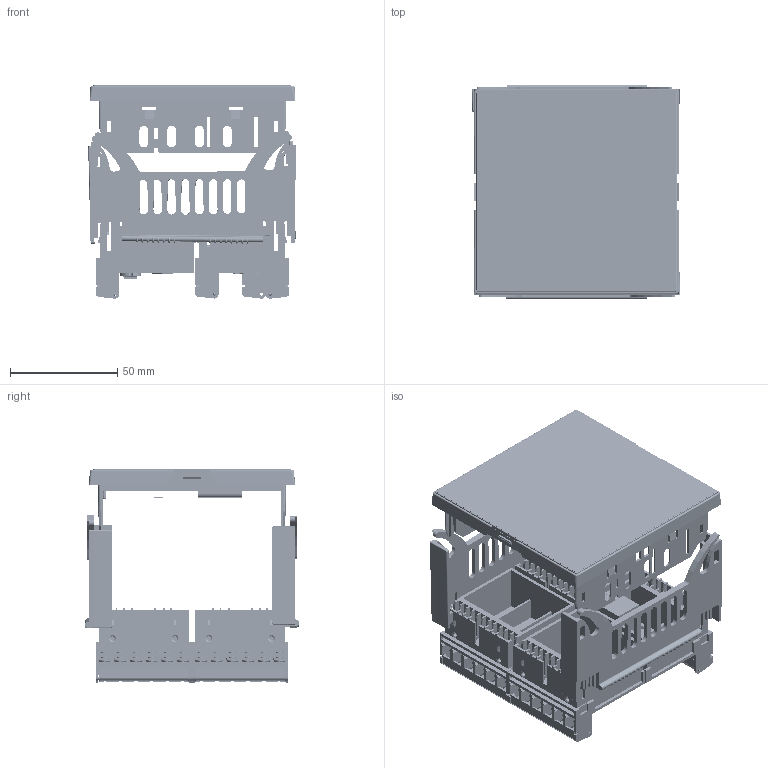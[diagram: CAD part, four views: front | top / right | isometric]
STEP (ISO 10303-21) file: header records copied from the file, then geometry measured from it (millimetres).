
FILE_DESCRIPTION((''),'2;1');
FILE_NAME('EPLC100_3D_MODEL','2019-12-03T',('SESA560213'),('Schneider-Electric'),'PRO/ENGINEER BY PARAMETRIC TECHNOLOGY CORPORATION, 2015440','PRO/ENGINEER BY PARAMETRIC TECHNOLOGY CORPORATION, 2015440','');
FILE_SCHEMA(('CONFIG_CONTROL_DESIGN'));
Products named in the file (1): EPLC100_3D_MODEL
Bounding box: 97.01 x 100.37 x 99.62 mm (x, y, z)
Volume: 134081.4 mm3; surface area: 187439 mm2
Topology: 11 solids, 40 shells, 15090 faces, 43168 edges, 28144 vertices
Faces by surface type: plane 12275, cylinder 2382, cone 234, torus 117, bspline 66, extrusion 8, sphere 8
Entity records: 500122 total; most frequent: CARTESIAN_POINT 101944, ORIENTED_EDGE 86336, DIRECTION 79877, EDGE_CURVE 43168, VECTOR 32533, LINE 32525, VERTEX_POINT 28144, AXIS2_PLACEMENT_3D 23672
